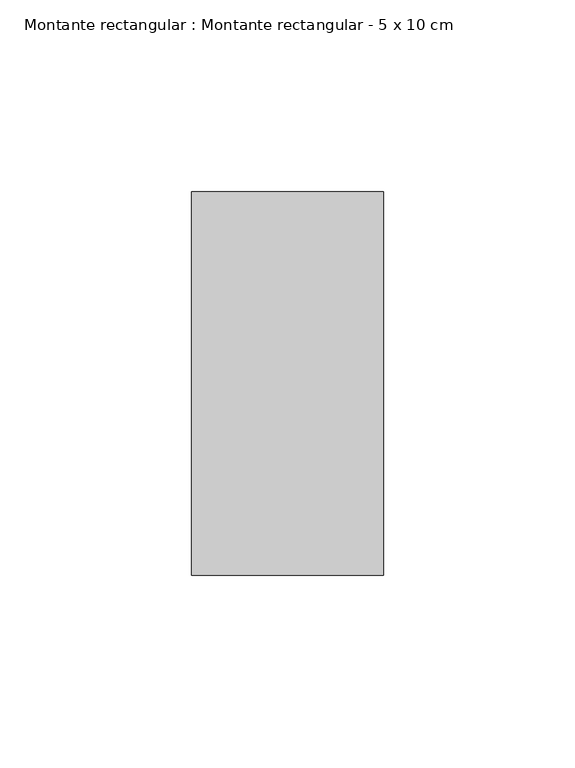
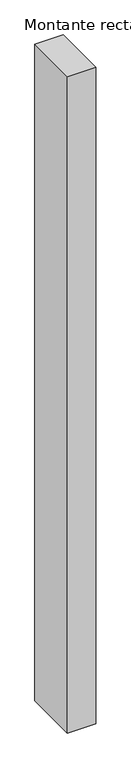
"""IFC4 building model written with IfcOpenShell, lengths in millimetres: member geometry, Montante rectangular : Montante rectangular - 5 x 10 cm."""

from ifc_helpers import new_model, si_unit, frame, origin, place, context, project, spatial, polyline, outline, extrude, source, transform, mapped, element, save


def montante_rectangular_montante_rectangular_5_x_10_cm_bf69f579(model_context):
    return source(origin(), model_context, "Body", "SweptSolid", [
        extrude(outline(polyline([(25.0, 50.0), (25.0, -50.0), (-25.0, -50.0), (-25.0, 50.0), (25.0, 50.0)])), frame((0.0, 0.0, -1230.0), z_axis=(0.0, 0.0, 1.0), x_axis=(1.0, 0.0, 0.0)), (0.0, 0.0, 1.0), 1230.0),
    ])


if __name__ == "__main__":
    model = new_model("IFC4")
    model_context = context("Model", 3, world=origin())
    ifc_project = project(units=[si_unit("LENGTHUNIT", "METRE", prefix="MILLI")], contexts=[model_context])
    site = spatial("IfcSite", under=ifc_project)
    building = spatial("IfcBuilding", under=site)
    placement = place(None, origin())
    montante_rectangular_montante_rectangular_5_x_10_cm_shape = montante_rectangular_montante_rectangular_5_x_10_cm_bf69f579(model_context)
    element("IfcMember", 1, ObjectType="Montante rectangular : Montante rectangular - 5 x 10 cm", at=placement, inside=building, context=model_context, shape_type="MappedRepresentation", body=[
        mapped(montante_rectangular_montante_rectangular_5_x_10_cm_shape, transform((0.0, 0.0, 0.0), x_axis=(1.0, 0.0, 0.0), y_axis=(0.0, 1.0, 0.0), z_axis=(0.0, 0.0, 1.0))),
    ])
    save(model, "model.ifc")
